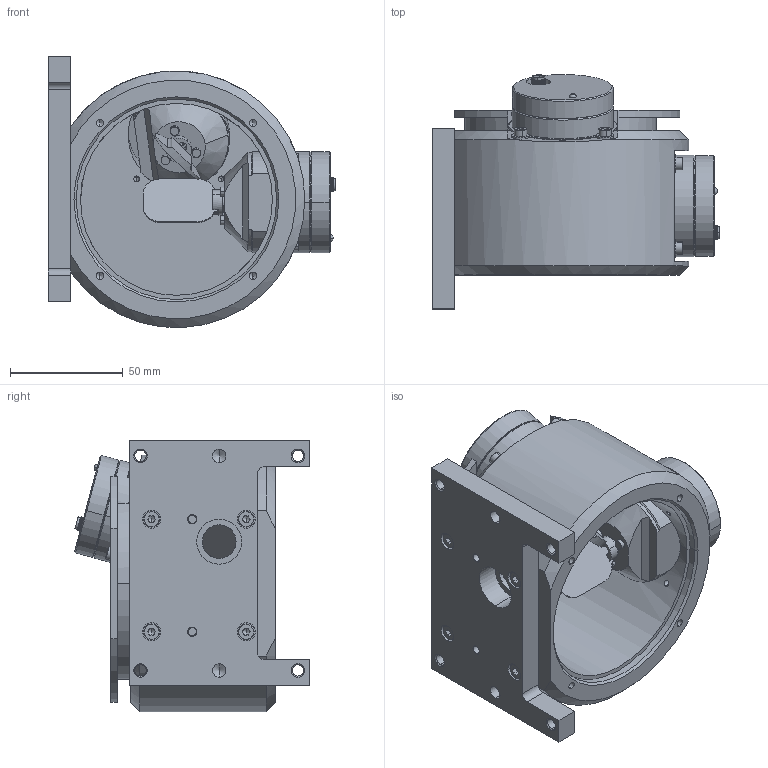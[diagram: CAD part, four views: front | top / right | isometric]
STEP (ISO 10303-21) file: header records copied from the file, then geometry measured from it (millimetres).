
FILE_DESCRIPTION (( 'STEP AP214' ), '1' );
FILE_NAME ('MSA_A15_SiC.STEP', '2019-06-06T11:30:27', ( '' ), ( '' ), 'SwSTEP 2.0', 'SolidWorks 2011', '' );
FILE_SCHEMA (( 'AUTOMOTIVE_DESIGN' ));
Length unit declared in the file: millimetre
Products named in the file (14): parallel pin hardened_iso_Parallel Pin ISO 8734 - 4 x 10 - A - St; socket head cap screw_iso_ISO 4762 M3 x 8 --- 8N; plain washer 10673 type snl_iso_ISO 10673-3.2-N; socket head cap screw_iso_ISO 4762 M4 x 12 --- 12N; rhothor_montage_plaat_Draw01_3; RTAY_A15_SiC; A15_SiC_MirrorY; RTAX_A15_SiC; socket head cap screw_iso_ISO 4762 M2 x 5 --- 5N; A15_SiC_MirrorX; Scanner_Draw10_4; Scanner_Solid; rhothor_motorblok_A15_Draw03_3; MSA_A15_SiC
Assembly tree (36 placements, depth 3):
  MSA_A15_SiC
    socket head cap screw_iso_ISO 4762 M3 x 8 --- 8N  x8
    socket head cap screw_iso_ISO 4762 M4 x 12 --- 12N  x4
    parallel pin hardened_iso_Parallel Pin ISO 8734 - 4 x 10 - A - St  x2
    RTAY_A15_SiC
      socket head cap screw_iso_ISO 4762 M2 x 5 --- 5N  x2
      A15_SiC_MirrorY
      Scanner_Draw10_4
      Scanner_Solid
    RTAX_A15_SiC
      A15_SiC_MirrorX
      Scanner_Solid
      Scanner_Draw10_4
      socket head cap screw_iso_ISO 4762 M2 x 5 --- 5N  x2
    plain washer 10673 type snl_iso_ISO 10673-3.2-N  x8
    rhothor_montage_plaat_Draw01_3
    rhothor_motorblok_A15_Draw03_3
Bounding box: 127.83 x 104.16 x 120.42 mm (x, y, z)
Volume: 485997.7 mm3; surface area: 110223 mm2
Topology: 34 solids, 34 shells, 1003 faces, 2278 edges, 1366 vertices
Faces by surface type: plane 406, cylinder 320, cone 190, torus 80, bspline 7
Entity records: 16675 total; most frequent: CARTESIAN_POINT 3474, DIRECTION 2490, ORIENTED_EDGE 2198, EDGE_CURVE 1099, AXIS2_PLACEMENT_3D 989, VERTEX_POINT 689, EDGE_LOOP 564, VECTOR 512
